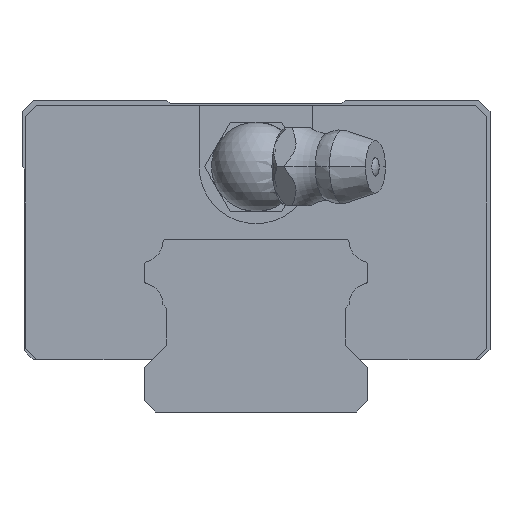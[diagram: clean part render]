
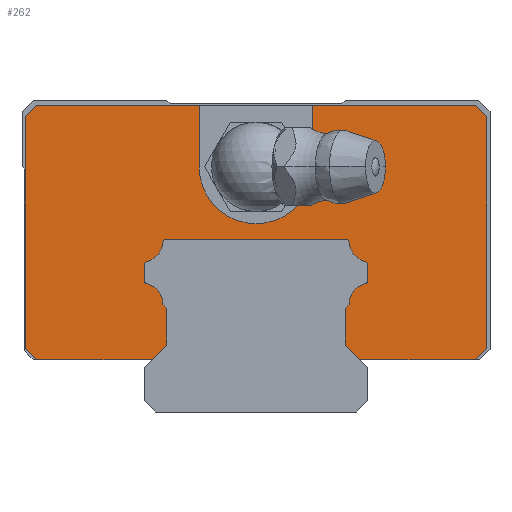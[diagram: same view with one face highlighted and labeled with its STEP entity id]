
A CAD part, front view. The second image highlights one B-rep face of the part: STEP entity #262.
In plain terms, the highlighted planar face has unit normal (0, -1, 0).
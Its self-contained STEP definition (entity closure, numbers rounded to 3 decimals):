
#262=ADVANCED_FACE('',(#570),#571,.T.);
#570=FACE_OUTER_BOUND('',#1005,.T.);
#571=PLANE('',#1006);
#1005=EDGE_LOOP('',(#2043,#2044,#2045,#2046,#2047,#2048,#2049,#2050,#2051,#2052,#2053,#2054,#2055,#2056,#2057,#2058,#2059,#2060,#2061,#2062,#2063,#2064,#2065,#2066,#2067,#2068,#2069,#2070,#2071,#2072,#2073,#2074,#2075));
#1006=AXIS2_PLACEMENT_3D('',#2076,#2077,#2078);
#2043=ORIENTED_EDGE('',*,*,#3269,.F.);
#2044=ORIENTED_EDGE('',*,*,#3270,.F.);
#2045=ORIENTED_EDGE('',*,*,#3271,.F.);
#2046=ORIENTED_EDGE('',*,*,#3239,.F.);
#2047=ORIENTED_EDGE('',*,*,#3272,.F.);
#2048=ORIENTED_EDGE('',*,*,#3273,.F.);
#2049=ORIENTED_EDGE('',*,*,#3274,.F.);
#2050=ORIENTED_EDGE('',*,*,#3275,.F.);
#2051=ORIENTED_EDGE('',*,*,#3203,.F.);
#2052=ORIENTED_EDGE('',*,*,#3276,.F.);
#2053=ORIENTED_EDGE('',*,*,#3277,.F.);
#2054=ORIENTED_EDGE('',*,*,#3278,.F.);
#2055=ORIENTED_EDGE('',*,*,#3279,.F.);
#2056=ORIENTED_EDGE('',*,*,#3280,.F.);
#2057=ORIENTED_EDGE('',*,*,#3199,.F.);
#2058=ORIENTED_EDGE('',*,*,#3281,.F.);
#2059=ORIENTED_EDGE('',*,*,#3232,.F.);
#2060=ORIENTED_EDGE('',*,*,#3282,.F.);
#2061=ORIENTED_EDGE('',*,*,#3283,.F.);
#2062=ORIENTED_EDGE('',*,*,#3284,.F.);
#2063=ORIENTED_EDGE('',*,*,#3285,.F.);
#2064=ORIENTED_EDGE('',*,*,#3286,.F.);
#2065=ORIENTED_EDGE('',*,*,#3217,.F.);
#2066=ORIENTED_EDGE('',*,*,#3287,.T.);
#2067=ORIENTED_EDGE('',*,*,#3288,.T.);
#2068=ORIENTED_EDGE('',*,*,#3133,.T.);
#2069=ORIENTED_EDGE('',*,*,#3289,.T.);
#2070=ORIENTED_EDGE('',*,*,#3213,.F.);
#2071=ORIENTED_EDGE('',*,*,#3290,.F.);
#2072=ORIENTED_EDGE('',*,*,#3291,.F.);
#2073=ORIENTED_EDGE('',*,*,#3292,.F.);
#2074=ORIENTED_EDGE('',*,*,#3227,.F.);
#2075=ORIENTED_EDGE('',*,*,#3235,.F.);
#2076=CARTESIAN_POINT('',(0.0,-19.6,22.0));
#2077=DIRECTION('',(0.0,-1.0,0.0));
#2078=DIRECTION('',(0.0,0.0,-1.0));
#3133=EDGE_CURVE('',#3776,#3780,#3782,.T.);
#3199=EDGE_CURVE('',#3895,#3891,#3897,.T.);
#3203=EDGE_CURVE('',#3903,#3899,#3905,.T.);
#3213=EDGE_CURVE('',#3921,#3923,#3924,.T.);
#3217=EDGE_CURVE('',#3929,#3917,#3931,.T.);
#3227=EDGE_CURVE('',#3948,#3936,#3950,.T.);
#3232=EDGE_CURVE('',#3957,#3953,#3959,.T.);
#3235=EDGE_CURVE('',#3962,#3948,#3964,.T.);
#3239=EDGE_CURVE('',#3970,#3966,#3972,.T.);
#3269=EDGE_CURVE('',#4021,#3962,#4022,.T.);
#3270=EDGE_CURVE('',#4023,#4021,#4024,.T.);
#3271=EDGE_CURVE('',#3966,#4023,#4025,.T.);
#3272=EDGE_CURVE('',#4026,#3970,#4027,.T.);
#3273=EDGE_CURVE('',#4028,#4026,#4029,.T.);
#3274=EDGE_CURVE('',#4030,#4028,#4031,.T.);
#3275=EDGE_CURVE('',#3899,#4030,#4032,.T.);
#3276=EDGE_CURVE('',#4033,#3903,#4034,.T.);
#3277=EDGE_CURVE('',#4035,#4033,#4036,.T.);
#3278=EDGE_CURVE('',#4037,#4035,#4038,.T.);
#3279=EDGE_CURVE('',#4039,#4037,#4040,.T.);
#3280=EDGE_CURVE('',#3891,#4039,#4041,.T.);
#3281=EDGE_CURVE('',#3953,#3895,#4042,.T.);
#3282=EDGE_CURVE('',#4043,#3957,#4044,.T.);
#3283=EDGE_CURVE('',#4045,#4043,#4046,.T.);
#3284=EDGE_CURVE('',#4047,#4045,#4048,.T.);
#3285=EDGE_CURVE('',#4049,#4047,#4050,.T.);
#3286=EDGE_CURVE('',#3917,#4049,#4051,.T.);
#3287=EDGE_CURVE('',#3929,#4052,#4053,.T.);
#3288=EDGE_CURVE('',#4052,#3776,#4054,.T.);
#3289=EDGE_CURVE('',#3780,#3923,#4055,.T.);
#3290=EDGE_CURVE('',#4056,#3921,#4057,.T.);
#3291=EDGE_CURVE('',#4058,#4056,#4059,.T.);
#3292=EDGE_CURVE('',#3936,#4058,#4060,.T.);
#3776=VERTEX_POINT('',#4728);
#3780=VERTEX_POINT('',#4733);
#3782=CIRCLE('',#4736,5.1);
#3891=VERTEX_POINT('',#4880);
#3895=VERTEX_POINT('',#4885);
#3897=CIRCLE('',#4888,1.9);
#3899=VERTEX_POINT('',#4890);
#3903=VERTEX_POINT('',#4896);
#3905=LINE('',#4899,#4900);
#3917=VERTEX_POINT('',#4916);
#3921=VERTEX_POINT('',#4922);
#3923=VERTEX_POINT('',#4925);
#3924=LINE('',#4926,#4927);
#3929=VERTEX_POINT('',#4934);
#3931=LINE('',#4937,#4938);
#3936=VERTEX_POINT('',#4943);
#3948=VERTEX_POINT('',#4961);
#3950=LINE('',#4964,#4965);
#3953=VERTEX_POINT('',#4968);
#3957=VERTEX_POINT('',#4974);
#3959=LINE('',#4977,#4978);
#3962=VERTEX_POINT('',#4982);
#3964=LINE('',#4985,#4986);
#3966=VERTEX_POINT('',#4988);
#3970=VERTEX_POINT('',#4993);
#3972=CIRCLE('',#4996,0.3);
#4021=VERTEX_POINT('',#5066);
#4022=LINE('',#5067,#5068);
#4023=VERTEX_POINT('',#5069);
#4024=LINE('',#5070,#5071);
#4025=CIRCLE('',#5072,1.9);
#4026=VERTEX_POINT('',#5073);
#4027=LINE('',#5074,#5075);
#4028=VERTEX_POINT('',#5076);
#4029=CIRCLE('',#5077,0.3);
#4030=VERTEX_POINT('',#5078);
#4031=CIRCLE('',#5079,1.9);
#4032=CIRCLE('',#5080,0.3);
#4033=VERTEX_POINT('',#5081);
#4034=CIRCLE('',#5082,0.3);
#4035=VERTEX_POINT('',#5083);
#4036=CIRCLE('',#5084,1.9);
#4037=VERTEX_POINT('',#5085);
#4038=CIRCLE('',#5086,0.3);
#4039=VERTEX_POINT('',#5087);
#4040=LINE('',#5088,#5089);
#4041=CIRCLE('',#5090,0.3);
#4042=LINE('',#5091,#5092);
#4043=VERTEX_POINT('',#5093);
#4044=LINE('',#5094,#5095);
#4045=VERTEX_POINT('',#5096);
#4046=LINE('',#5097,#5098);
#4047=VERTEX_POINT('',#5099);
#4048=LINE('',#5100,#5101);
#4049=VERTEX_POINT('',#5102);
#4050=LINE('',#5103,#5104);
#4051=LINE('',#5105,#5106);
#4052=VERTEX_POINT('',#5107);
#4053=LINE('',#5108,#5109);
#4054=CIRCLE('',#5110,5.1);
#4055=LINE('',#5111,#5112);
#4056=VERTEX_POINT('',#5113);
#4057=LINE('',#5114,#5115);
#4058=VERTEX_POINT('',#5116);
#4059=LINE('',#5117,#5118);
#4060=LINE('',#5119,#5120);
#4728=CARTESIAN_POINT('',(0.,-19.6,16.9));
#4733=CARTESIAN_POINT('',(-5.1,-19.6,22.0));
#4736=AXIS2_PLACEMENT_3D('',#5994,#5995,#5996);
#4880=CARTESIAN_POINT('',(9.775,-19.6,11.49));
#4885=CARTESIAN_POINT('',(8.349,-19.6,9.649));
#4888=AXIS2_PLACEMENT_3D('',#6118,#6119,#6120);
#4890=CARTESIAN_POINT('',(-8.055,-19.6,15.5));
#4896=CARTESIAN_POINT('',(8.055,-19.6,15.5));
#4899=CARTESIAN_POINT('',(0.0,-19.6,15.5));
#4900=VECTOR('',#6124,1000.0);
#4916=CARTESIAN_POINT('',(19.7,-19.6,27.5));
#4922=CARTESIAN_POINT('',(-19.7,-19.6,27.5));
#4925=CARTESIAN_POINT('',(-5.1,-19.6,27.5));
#4926=CARTESIAN_POINT('',(-19.7,-19.6,27.5));
#4927=VECTOR('',#6138,1000.0);
#4934=CARTESIAN_POINT('',(5.1,-19.6,27.5));
#4937=CARTESIAN_POINT('',(-19.7,-19.6,27.5));
#4938=VECTOR('',#6142,1000.0);
#4943=CARTESIAN_POINT('',(-19.7,-19.6,4.7));
#4961=CARTESIAN_POINT('',(-9.3,-19.6,4.7));
#4964=CARTESIAN_POINT('',(19.7,-19.6,4.7));
#4965=VECTOR('',#6156,1000.0);
#4968=CARTESIAN_POINT('',(8.0,-19.6,9.3));
#4974=CARTESIAN_POINT('',(8.0,-19.6,6.));
#4977=CARTESIAN_POINT('',(8.0,-19.6,22.0));
#4978=VECTOR('',#6163,1000.0);
#4982=CARTESIAN_POINT('',(-8.0,-19.6,6.));
#4985=CARTESIAN_POINT('',(4.,-19.6,18.));
#4986=VECTOR('',#6166,1000.0);
#4988=CARTESIAN_POINT('',(-9.775,-19.6,11.49));
#4993=CARTESIAN_POINT('',(-10.0,-19.6,11.781));
#4996=AXIS2_PLACEMENT_3D('',#6172,#6173,#6174);
#5066=CARTESIAN_POINT('',(-8.0,-19.6,9.3));
#5067=CARTESIAN_POINT('',(-8.0,-19.6,22.0));
#5068=VECTOR('',#6220,1000.0);
#5069=CARTESIAN_POINT('',(-8.349,-19.6,9.649));
#5070=CARTESIAN_POINT('',(-10.35,-19.6,11.65));
#5071=VECTOR('',#6221,1000.0);
#5072=AXIS2_PLACEMENT_3D('',#6222,#6223,#6224);
#5073=CARTESIAN_POINT('',(-10.0,-19.6,13.219));
#5074=CARTESIAN_POINT('',(-10.0,-19.6,22.0));
#5075=VECTOR('',#6225,1000.0);
#5076=CARTESIAN_POINT('',(-9.775,-19.6,13.51));
#5077=AXIS2_PLACEMENT_3D('',#6226,#6227,#6228);
#5078=CARTESIAN_POINT('',(-8.354,-19.6,15.22));
#5079=AXIS2_PLACEMENT_3D('',#6229,#6230,#6231);
#5080=AXIS2_PLACEMENT_3D('',#6232,#6233,#6234);
#5081=CARTESIAN_POINT('',(8.354,-19.6,15.22));
#5082=AXIS2_PLACEMENT_3D('',#6235,#6236,#6237);
#5083=CARTESIAN_POINT('',(9.775,-19.6,13.51));
#5084=AXIS2_PLACEMENT_3D('',#6238,#6239,#6240);
#5085=CARTESIAN_POINT('',(10.0,-19.6,13.219));
#5086=AXIS2_PLACEMENT_3D('',#6241,#6242,#6243);
#5087=CARTESIAN_POINT('',(10.0,-19.6,11.781));
#5088=CARTESIAN_POINT('',(10.0,-19.6,22.0));
#5089=VECTOR('',#6244,1000.0);
#5090=AXIS2_PLACEMENT_3D('',#6245,#6246,#6247);
#5091=CARTESIAN_POINT('',(10.35,-19.6,11.65));
#5092=VECTOR('',#6248,1000.0);
#5093=CARTESIAN_POINT('',(9.3,-19.6,4.7));
#5094=CARTESIAN_POINT('',(-4.,-19.6,18.));
#5095=VECTOR('',#6249,1000.0);
#5096=CARTESIAN_POINT('',(19.7,-19.6,4.7));
#5097=CARTESIAN_POINT('',(19.7,-19.6,4.7));
#5098=VECTOR('',#6250,1000.0);
#5099=CARTESIAN_POINT('',(20.7,-19.6,5.7));
#5100=CARTESIAN_POINT('',(20.7,-19.6,5.7));
#5101=VECTOR('',#6251,1000.0);
#5102=CARTESIAN_POINT('',(20.7,-19.6,26.5));
#5103=CARTESIAN_POINT('',(20.7,-19.6,26.5));
#5104=VECTOR('',#6252,1000.0);
#5105=CARTESIAN_POINT('',(19.7,-19.6,27.5));
#5106=VECTOR('',#6253,1000.0);
#5107=CARTESIAN_POINT('',(5.1,-19.6,22.0));
#5108=CARTESIAN_POINT('',(5.1,-19.6,27.5));
#5109=VECTOR('',#6254,1000.0);
#5110=AXIS2_PLACEMENT_3D('',#6255,#6256,#6257);
#5111=CARTESIAN_POINT('',(-5.1,-19.6,22.0));
#5112=VECTOR('',#6258,1000.0);
#5113=CARTESIAN_POINT('',(-20.7,-19.6,26.5));
#5114=CARTESIAN_POINT('',(-20.7,-19.6,26.5));
#5115=VECTOR('',#6259,1000.0);
#5116=CARTESIAN_POINT('',(-20.7,-19.6,5.7));
#5117=CARTESIAN_POINT('',(-20.7,-19.6,5.7));
#5118=VECTOR('',#6260,1000.0);
#5119=CARTESIAN_POINT('',(-19.7,-19.6,4.7));
#5120=VECTOR('',#6261,1000.0);
#5994=CARTESIAN_POINT('',(0.0,-19.6,22.0));
#5995=DIRECTION('',(0.0,1.0,0.0));
#5996=DIRECTION('',(-1.0,0.0,0.0));
#6118=CARTESIAN_POINT('',(10.249,-19.6,9.651));
#6119=DIRECTION('',(0.0,1.0,0.0));
#6120=DIRECTION('',(0.0,0.0,-1.0));
#6124=DIRECTION('',(-1.0,0.0,0.0));
#6138=DIRECTION('',(1.0,0.0,0.0));
#6142=DIRECTION('',(1.0,0.0,0.0));
#6156=DIRECTION('',(-1.0,0.0,0.0));
#6163=DIRECTION('',(0.0,0.0,1.0));
#6166=DIRECTION('',(-0.707,0.0,-0.707));
#6172=CARTESIAN_POINT('',(-9.7,-19.6,11.781));
#6173=DIRECTION('',(0.0,-1.0,0.0));
#6174=DIRECTION('',(0.0,0.0,-1.0));
#6220=DIRECTION('',(0.0,0.0,-1.0));
#6221=DIRECTION('',(0.707,0.0,-0.707));
#6222=CARTESIAN_POINT('',(-10.249,-19.6,9.651));
#6223=DIRECTION('',(0.0,1.0,0.0));
#6224=DIRECTION('',(0.0,0.0,-1.0));
#6225=DIRECTION('',(0.0,0.0,-1.0));
#6226=CARTESIAN_POINT('',(-9.7,-19.6,13.219));
#6227=DIRECTION('',(0.0,-1.0,0.0));
#6228=DIRECTION('',(0.0,0.0,-1.0));
#6229=CARTESIAN_POINT('',(-10.249,-19.6,15.349));
#6230=DIRECTION('',(0.0,1.0,0.0));
#6231=DIRECTION('',(0.0,0.0,-1.0));
#6232=CARTESIAN_POINT('',(-8.055,-19.6,15.2));
#6233=DIRECTION('',(0.0,-1.0,0.0));
#6234=DIRECTION('',(0.0,0.0,-1.0));
#6235=CARTESIAN_POINT('',(8.055,-19.6,15.2));
#6236=DIRECTION('',(0.0,-1.0,0.0));
#6237=DIRECTION('',(0.0,0.0,-1.0));
#6238=CARTESIAN_POINT('',(10.249,-19.6,15.349));
#6239=DIRECTION('',(0.0,1.0,0.0));
#6240=DIRECTION('',(0.0,0.0,-1.0));
#6241=CARTESIAN_POINT('',(9.7,-19.6,13.219));
#6242=DIRECTION('',(0.0,-1.0,0.0));
#6243=DIRECTION('',(0.0,0.0,-1.0));
#6244=DIRECTION('',(0.0,0.0,1.0));
#6245=CARTESIAN_POINT('',(9.7,-19.6,11.781));
#6246=DIRECTION('',(0.0,-1.0,0.0));
#6247=DIRECTION('',(0.0,0.0,-1.0));
#6248=DIRECTION('',(0.707,0.0,0.707));
#6249=DIRECTION('',(-0.707,0.0,0.707));
#6250=DIRECTION('',(-1.0,0.0,0.0));
#6251=DIRECTION('',(-0.707,0.0,-0.707));
#6252=DIRECTION('',(0.0,0.0,-1.0));
#6253=DIRECTION('',(0.707,0.0,-0.707));
#6254=DIRECTION('',(0.0,0.0,-1.0));
#6255=CARTESIAN_POINT('',(0.0,-19.6,22.0));
#6256=DIRECTION('',(0.0,1.0,0.0));
#6257=DIRECTION('',(-1.0,0.0,0.0));
#6258=DIRECTION('',(0.0,0.0,1.0));
#6259=DIRECTION('',(0.707,0.0,0.707));
#6260=DIRECTION('',(0.0,0.0,1.0));
#6261=DIRECTION('',(-0.707,0.0,0.707));
